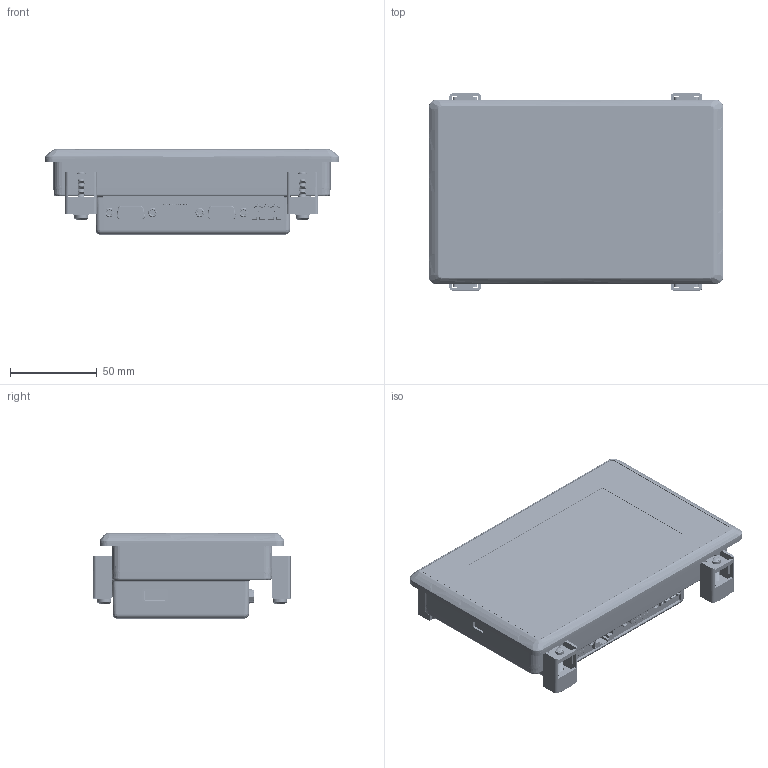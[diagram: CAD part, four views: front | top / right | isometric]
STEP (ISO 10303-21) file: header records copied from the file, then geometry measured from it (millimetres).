
FILE_DESCRIPTION (( 'STEP AP214' ), '1' );
FILE_NAME ('X2 base 5 ref.STEP', '2016-09-02T02:47:00', ( 'user' ), ( '' ), 'SwSTEP 2.0', 'SolidWorks 2015', '' );
FILE_SCHEMA (( 'AUTOMOTIVE_DESIGN' ));
Length unit declared in the file: millimetre
Products named in the file (1): X2 base 5 ref
Bounding box: 170.4 x 113.88 x 49.2 mm (x, y, z)
Volume: 589603.1 mm3; surface area: 150416.4 mm2
Topology: 31 solids, 36 shells, 4707 faces, 11217 edges, 6755 vertices
Faces by surface type: plane 1554, cylinder 1436, cone 959, torus 570, bspline 187, sphere 1
Entity records: 207912 total; most frequent: CARTESIAN_POINT 48323, DIRECTION 22791, ORIENTED_EDGE 22420, EDGE_CURVE 11210, AXIS2_PLACEMENT_3D 8440, VERTEX_POINT 6755, LINE 5911, VECTOR 5911
